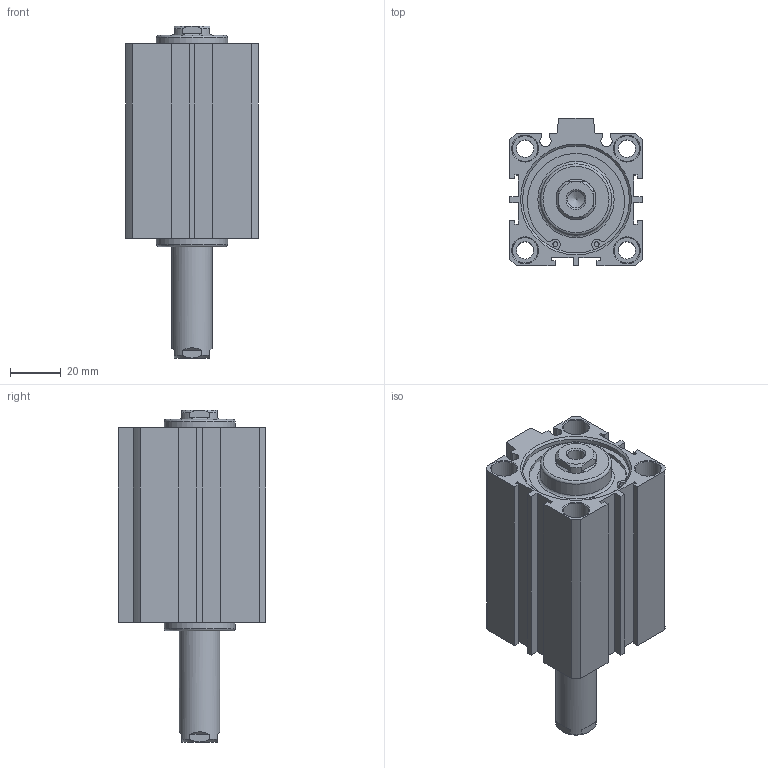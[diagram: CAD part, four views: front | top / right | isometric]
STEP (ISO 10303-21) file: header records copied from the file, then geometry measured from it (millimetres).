
FILE_DESCRIPTION((''),'2;1');
FILE_NAME('I:\3D電子目錄\氣缸\JDD\JDD-S\JDD40-S\JDD40x40-S.stp','2007-02-09T08:33:40',('662F206'),(''),'Autodesk Inventor 10','Autodesk Inventor 10','');
FILE_SCHEMA(('AUTOMOTIVE_DESIGN { 1 0 10303 214 1 1 1 1 }'));
Length unit declared in the file: millimetre
Products named in the file (3): JDD40-S; R 形環 42
Assembly tree (3 placements, depth 2):
  JDD40-S
    JDD40-S
    R 形環 42  x2
Bounding box: 52 x 58 x 130.5 mm (x, y, z)
Volume: 189595.9 mm3; surface area: 42964.5 mm2
Topology: 3 solids, 3 shells, 179 faces, 431 edges, 280 vertices
Faces by surface type: plane 98, cylinder 49, cone 24, bspline 6, torus 2
Full cylindrical faces by diameter (mm): 1.9 x4, 2.2 x2, 6.8 x4, 10 x8, 16 x1, 28 x2, 42 x4, 44.5 x2
Entity records: 4755 total; most frequent: CARTESIAN_POINT 955, DIRECTION 792, ORIENTED_EDGE 686, EDGE_CURVE 343, AXIS2_PLACEMENT_3D 298, VERTEX_POINT 251, EDGE_LOOP 250, VECTOR 196
